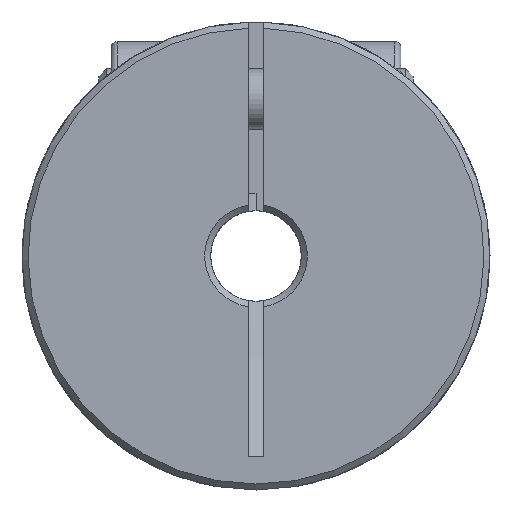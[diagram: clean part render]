
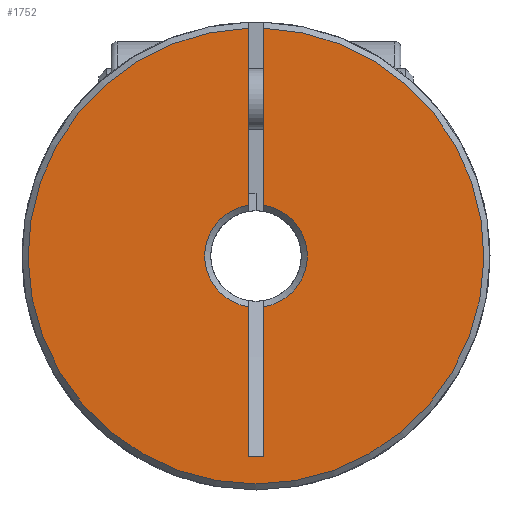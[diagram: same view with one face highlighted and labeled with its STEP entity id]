
A CAD part, left-side view. The second image highlights one B-rep face of the part: STEP entity #1752.
In plain terms, the highlighted planar face has unit normal (-1, 0, 0).
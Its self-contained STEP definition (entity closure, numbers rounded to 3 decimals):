
#126=LINE('',#2822,#206);
#129=LINE('',#2833,#209);
#132=LINE('',#2864,#212);
#137=LINE('',#2886,#217);
#138=LINE('',#2894,#218);
#206=VECTOR('',#2187,1000.);
#209=VECTOR('',#2192,1000.);
#212=VECTOR('',#2207,1000.);
#217=VECTOR('',#2216,1000.);
#218=VECTOR('',#2219,1000.);
#376=ORIENTED_EDGE('',*,*,#793,.T.);
#377=ORIENTED_EDGE('',*,*,#742,.F.);
#378=ORIENTED_EDGE('',*,*,#752,.F.);
#379=ORIENTED_EDGE('',*,*,#762,.T.);
#380=ORIENTED_EDGE('',*,*,#794,.T.);
#381=ORIENTED_EDGE('',*,*,#760,.T.);
#382=ORIENTED_EDGE('',*,*,#795,.F.);
#383=ORIENTED_EDGE('',*,*,#738,.F.);
#738=EDGE_CURVE('',#951,#952,#126,.T.);
#742=EDGE_CURVE('',#955,#956,#129,.T.);
#752=EDGE_CURVE('',#964,#955,#132,.T.);
#760=EDGE_CURVE('',#967,#971,#137,.T.);
#762=EDGE_CURVE('',#964,#972,#138,.T.);
#793=EDGE_CURVE('',#951,#956,#1116,.T.);
#794=EDGE_CURVE('',#972,#967,#1117,.T.);
#795=EDGE_CURVE('',#952,#971,#1118,.T.);
#951=VERTEX_POINT('',#2821);
#952=VERTEX_POINT('',#2823);
#955=VERTEX_POINT('',#2834);
#956=VERTEX_POINT('',#2835);
#964=VERTEX_POINT('',#2863);
#967=VERTEX_POINT('',#2873);
#971=VERTEX_POINT('',#2885);
#972=VERTEX_POINT('',#2892);
#1116=CIRCLE('',#1924,1.7);
#1117=CIRCLE('',#1925,1.7);
#1118=CIRCLE('',#1926,7.55);
#1239=EDGE_LOOP('',(#376,#377,#378,#379,#380,#381,#382,#383));
#1465=FACE_BOUND('',#1239,.T.);
#1674=PLANE('',#1923);
#1752=ADVANCED_FACE('',(#1465),#1674,.F.);
#1923=AXIS2_PLACEMENT_3D('',#3018,#2269,#2270);
#1924=AXIS2_PLACEMENT_3D('',#3019,#2271,#2272);
#1925=AXIS2_PLACEMENT_3D('',#3020,#2273,#2274);
#1926=AXIS2_PLACEMENT_3D('',#3021,#2275,#2276);
#2187=DIRECTION('',(0.,0.,1.));
#2192=DIRECTION('',(0.,0.,1.));
#2207=DIRECTION('',(0.,-1.,0.));
#2216=DIRECTION('',(0.,0.,1.));
#2219=DIRECTION('',(0.,0.,1.));
#2269=DIRECTION('',(1.,0.,0.));
#2270=DIRECTION('',(0.,0.,-1.));
#2271=DIRECTION('',(1.,0.,0.));
#2272=DIRECTION('',(0.,0.,-1.));
#2273=DIRECTION('',(1.,0.,0.));
#2274=DIRECTION('',(0.,0.,-1.));
#2275=DIRECTION('',(1.,0.,0.));
#2276=DIRECTION('',(0.,0.,-1.));
#2821=CARTESIAN_POINT('',(0.,-0.25,1.682));
#2822=CARTESIAN_POINT('',(0.,-0.25,-6.624));
#2823=CARTESIAN_POINT('',(0.,-0.25,7.546));
#2833=CARTESIAN_POINT('',(0.,-0.25,-6.624));
#2834=CARTESIAN_POINT('',(0.,-0.25,-6.624));
#2835=CARTESIAN_POINT('',(0.,-0.25,-1.682));
#2863=CARTESIAN_POINT('',(0.,0.25,-6.624));
#2864=CARTESIAN_POINT('',(0.,0.25,-6.624));
#2873=CARTESIAN_POINT('',(0.,0.25,1.682));
#2885=CARTESIAN_POINT('',(0.,0.25,7.546));
#2886=CARTESIAN_POINT('',(0.,0.25,-6.624));
#2892=CARTESIAN_POINT('',(0.,0.25,-1.682));
#2894=CARTESIAN_POINT('',(0.,0.25,-6.624));
#3018=CARTESIAN_POINT('',(0.,0.,0.));
#3019=CARTESIAN_POINT('',(0.,0.,0.));
#3020=CARTESIAN_POINT('',(0.,0.,0.));
#3021=CARTESIAN_POINT('',(0.,0.,0.));
